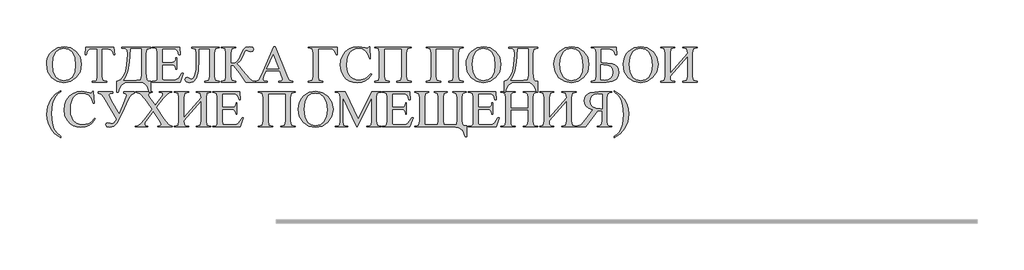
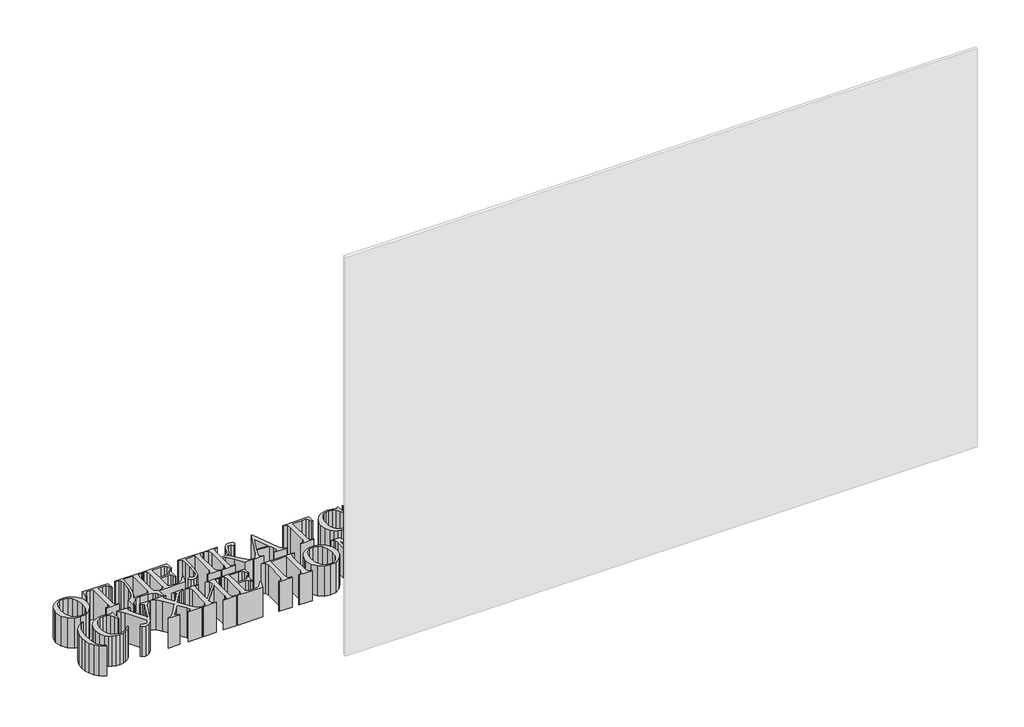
# One storey, part 4 of 17: 1 proxy.
"""IFC4 building model written with IfcOpenShell, lengths in millimetres."""

from ifc_helpers import new_model, si_unit, origin, origin_with_axes, place, context, project, spatial, polyline, outline, extrude, element, save

model = new_model("IFC4")

# Units and contexts
model_context = context("Model", 3, world=origin())
ifc_project = project(units=[si_unit("LENGTHUNIT", "METRE", prefix="MILLI")], contexts=[model_context])

# Site, building, storey
site = spatial("IfcSite", under=ifc_project)
building = spatial("IfcBuilding", under=site)
storey = spatial("IfcBuildingStorey", under=building, Name="Уровень 1", Elevation=0.0)

# Proxy
placement = place(None, origin())
element("IfcBuildingElementProxy", 1, Name="SG_Текст 2", ObjectType="SG_Текст 2", at=placement, inside=storey, context=model_context, shape_type="SweptSolid", body=[
    extrude(outline(polyline([(-694.4542029, -10182.1485348), (-666.748358, -10187.6092512), (-643.0048009, -10203.9914005), (-626.682991, -10228.5394831), (-621.2423877, -10258.4979992), (-626.7232173, -10289.3062953), (-643.165706, -10314.3924043), (-667.3919784, -10331.0611658), (-696.2241589, -10336.6174196), (-725.2021597, -10331.1969295), (-749.1418199, -10314.935459), (-765.2071873, -10290.0655662), (-770.5623098, -10258.8198094), (-769.0161124, -10242.0479681), (-764.3775204, -10226.8902059), (-756.6465337, -10213.3465229), (-745.8231524, -10201.4169191), (-722.2405004, -10186.9656308), (-694.4542029, -10182.1485348)]), holes=[polyline([(-696.5861954, -10189.871979), (-715.0299411, -10193.5526829), (-729.4108334, -10204.5947946), (-740.9658301, -10227.1919029), (-744.8174956, -10258.2968678), (-740.8250381, -10290.3370936), (-728.8476656, -10314.050481), (-714.6176218, -10325.1831018), (-696.4655165, -10328.8939754), (-676.8552089, -10324.8311219), (-660.9859445, -10312.6425614), (-650.4868875, -10291.6947303), (-646.9872019, -10261.3540645), (-650.8388674, -10228.2076163), (-662.3938641, -10204.7154734), (-677.1166797, -10193.5828526), (-696.5861954, -10189.871979)])]), origin_with_axes(), (0.0, 0.0, 1.0), 150.0),
    extrude(outline(polyline([(-482.2203913, -10184.7230162), (-479.6459099, -10218.1912746), (-483.8294422, -10218.1912746), (-487.2486753, -10204.9166048), (-496.6012836, -10195.483544), (-512.028059, -10192.4464604), (-533.7100196, -10192.4464604), (-533.7100196, -10308.2981241), (-530.813728, -10326.5608516), (-518.1826786, -10331.4684568), (-513.1141683, -10331.4684568), (-513.1141683, -10334.0429382), (-574.9017223, -10334.0429382), (-574.9017223, -10331.4684568), (-569.7527594, -10331.4684568), (-561.8784667, -10329.949915), (-556.679221, -10325.3942897), (-554.3058709, -10308.2981241), (-554.3058709, -10192.4464604), (-572.1663357, -10192.4464604), (-586.9696039, -10193.9750588), (-596.744588, -10202.0404263), (-601.5717407, -10218.1912746), (-605.7954992, -10218.1912746), (-603.2210178, -10184.7230162), (-482.2203913, -10184.7230162)])), origin_with_axes(), (0.0, 0.0, 1.0), 150.0),
    extrude(outline(polyline([(-448.7521329, -10184.7230162), (-325.1770251, -10184.7230162), (-325.1770251, -10189.871979), (-342.0921725, -10194.2566427), (-345.7728764, -10212.8411804), (-345.7728764, -10295.0636805), (-343.0173767, -10324.549538), (-337.179539, -10328.7732966), (-325.1770251, -10330.1812161), (-325.1770251, -10377.8091223), (-330.3259879, -10377.8091223), (-340.6038004, -10351.0385382), (-348.1763961, -10342.5658796), (-356.6943092, -10337.4621713), (-378.235478, -10334.0429382), (-415.0827432, -10334.0429382), (-436.0506875, -10337.492341), (-450.6025415, -10347.8405495), (-459.6735658, -10362.2314984), (-464.1990214, -10377.8091223), (-469.3479843, -10377.8091223), (-469.3479843, -10330.1812161), (-453.9966332, -10324.1372187), (-441.813101, -10309.0624232), (-432.837614, -10287.2396706), (-427.1103986, -10260.9518018), (-423.0073188, -10214.1686473), (-425.8633841, -10198.0781385), (-432.641511, -10191.6218218), (-448.7521329, -10189.871979), (-448.7521329, -10184.7230162)]), holes=[polyline([(-410.1349117, -10192.4464604), (-414.0971995, -10248.3660069), (-420.5132899, -10284.6651892), (-429.4636355, -10308.3232655), (-441.0286887, -10326.319494), (-386.6427688, -10326.319494), (-369.2449061, -10323.7248994), (-366.3687277, -10306.809752), (-366.3687277, -10192.4464604), (-410.1349117, -10192.4464604)])]), origin_with_axes(), (0.0, 0.0, 1.0), 150.0),
    extrude(outline(polyline([(-276.2618782, -10192.4464604), (-276.2618782, -10251.6595329), (-240.2191384, -10251.6595329), (-223.3643304, -10247.9989422), (-218.949497, -10241.3515507), (-217.0488056, -10231.0636816), (-214.4743242, -10231.0636816), (-214.4743242, -10279.9788285), (-217.0488056, -10279.9788285), (-220.1060023, -10267.0259689), (-226.5019796, -10261.4144039), (-240.2191384, -10259.3829772), (-276.2618782, -10259.3829772), (-276.2618782, -10309.3440071), (-275.3366739, -10321.5727939), (-272.098459, -10325.0322533), (-263.3492448, -10326.319494), (-236.7999052, -10326.319494), (-217.5114078, -10324.4690854), (-205.9463545, -10317.1479039), (-191.3039915, -10295.425717), (-186.1550287, -10295.425717), (-199.7515086, -10334.0429382), (-317.4535808, -10334.0429382), (-317.4535808, -10331.4684568), (-312.3448443, -10331.4684568), (-302.6905389, -10328.8135228), (-298.0846308, -10323.3226367), (-296.8577295, -10308.2981241), (-296.8577295, -10210.4678303), (-299.6333423, -10191.9637451), (-312.3448443, -10187.2974976), (-317.4535808, -10187.2974976), (-317.4535808, -10184.7230162), (-201.6019172, -10184.7230162), (-199.0274357, -10218.1912746), (-204.1763986, -10218.1912746), (-209.4460402, -10201.2157877), (-218.0142362, -10194.1761901), (-234.0242925, -10192.4464604), (-276.2618782, -10192.4464604)])), origin_with_axes(), (0.0, 0.0, 1.0), 150.0),
    extrude(outline(polyline([(-72.8778464, -10192.4464604), (-119.2185119, -10192.4464604), (-119.2185119, -10234.6438198), (-122.0041812, -10287.3150949), (-130.3611893, -10317.5702798), (-143.6157459, -10331.8556347), (-161.0940612, -10336.6174196), (-173.926242, -10332.6350187), (-178.4315844, -10323.3829761), (-175.5352928, -10316.4037179), (-168.4956952, -10313.4470869), (-160.5711196, -10317.1076777), (-151.5202084, -10321.1705311), (-142.6855134, -10317.1730453), (-135.650944, -10305.180588), (-131.0500642, -10282.0353967), (-129.5164376, -10244.5797091), (-129.5164376, -10213.1227643), (-133.1971414, -10194.2968689), (-150.1122889, -10189.871979), (-150.1122889, -10184.7230162), (-31.6861438, -10184.7230162), (-31.6861438, -10187.2974976), (-48.6012912, -10191.7022744), (-52.2819951, -10210.4678303), (-52.2819951, -10308.2981241), (-48.6012912, -10327.06368), (-31.6861438, -10331.4684568), (-31.6861438, -10334.0429382), (-93.4736977, -10334.0429382), (-93.4736977, -10331.4684568), (-76.5585503, -10327.06368), (-72.8778464, -10308.2981241), (-72.8778464, -10192.4464604)])), origin_with_axes(), (0.0, 0.0, 1.0), 150.0),
    extrude(outline(polyline([(121.4150478, -10329.9398585), (121.4150478, -10334.0429382), (82.4357901, -10334.0429382), (55.6450929, -10296.2101293), (30.7450305, -10265.2358998), (17.2290031, -10261.9574586), (17.2290031, -10308.2981241), (20.8493676, -10327.06368), (37.8248544, -10331.4684568), (37.8248544, -10334.0429382), (-23.9626996, -10334.0429382), (-23.9626996, -10331.4684568), (-7.0877784, -10327.1039063), (-3.3668482, -10308.2981241), (-3.3668482, -10210.4678303), (-7.0475521, -10191.7022744), (-23.9626996, -10187.2974976), (-23.9626996, -10184.7230162), (37.8248544, -10184.7230162), (37.8248544, -10187.2974976), (20.8493676, -10191.7022744), (17.2290031, -10210.4678303), (17.2290031, -10254.2340144), (34.1039242, -10252.6048503), (44.6432075, -10245.6859315), (53.9153632, -10234.0404258), (62.6846905, -10213.525027), (70.8908501, -10194.900263), (81.1083232, -10185.9096912), (97.8424524, -10182.1485348), (110.7550857, -10185.2459577), (115.0592968, -10194.5382266), (111.6601768, -10202.1007657), (103.8763932, -10205.3188675), (93.3773362, -10201.256014), (84.3666512, -10197.5954232), (78.2120316, -10201.3364665), (70.0460983, -10220.4037195), (57.8575379, -10243.7852402), (42.6922333, -10256.7280432), (53.3924217, -10265.5174837), (69.3220254, -10285.2886964), (98.4056202, -10320.848721), (108.8644509, -10327.5262821), (121.4150478, -10329.9398585)])), origin_with_axes(), (0.0, 0.0, 1.0), 150.0),
    extrude(outline(polyline([(226.6872019, -10285.1277913), (168.4395599, -10285.1277913), (158.8254809, -10307.4935986), (155.0844376, -10321.4118888), (158.3427656, -10327.8480923), (172.4219608, -10331.4684568), (172.4219608, -10334.0429382), (124.9549598, -10334.0429382), (124.9549598, -10331.4684568), (137.1032939, -10326.8022092), (149.6136646, -10303.4307451), (201.9882708, -10182.1485348), (207.4992701, -10182.1485348), (256.6557746, -10305.4018325), (268.1202622, -10326.1183626), (282.440815, -10331.4684568), (282.440815, -10334.0429382), (223.4288739, -10334.0429382), (223.4288739, -10331.4684568), (235.5168686, -10328.1497893), (238.674631, -10321.2509837), (234.2497411, -10304.1145918), (226.6872019, -10285.1277913)]), holes=[polyline([(223.5897789, -10277.4043471), (198.7299428, -10216.783355), (171.7783405, -10277.4043471), (223.5897789, -10277.4043471)])]), origin_with_axes(), (0.0, 0.0, 1.0), 150.0),
    extrude(outline(polyline([(472.2685931, -10184.7230162), (472.9122134, -10218.1912746), (467.7632506, -10218.1912746), (462.9964374, -10201.8795212), (452.5174935, -10194.0957376), (434.5765761, -10192.4464604), (390.5288082, -10192.4464604), (390.5288082, -10308.2981241), (394.1893989, -10327.06368), (411.1246595, -10331.4684568), (411.1246595, -10334.0429382), (349.3371055, -10334.0429382), (349.3371055, -10331.4684568), (366.252253, -10327.06368), (369.9329569, -10308.2981241), (369.9329569, -10210.4678303), (366.252253, -10191.7022744), (349.3371055, -10187.2974976), (349.3371055, -10184.7230162), (472.2685931, -10184.7230162)])), origin_with_axes(), (0.0, 0.0, 1.0), 150.0),
    extrude(outline(polyline([(611.9342098, -10182.1485348), (614.5086912, -10233.638163), (611.9342098, -10233.638163), (603.8235877, -10213.6105078), (592.8468437, -10200.1095652), (579.2051092, -10192.4313756), (563.0995155, -10189.871979), (549.2365365, -10191.7274158), (536.7714204, -10197.2937262), (526.2623068, -10206.9279184), (518.2673352, -10220.9870005), (513.2139098, -10239.2446997), (511.5294346, -10261.4747433), (513.1334572, -10280.0995073), (517.945525, -10296.0693373), (525.9857512, -10309.0020838), (537.2742488, -10318.5155972), (551.0919733, -10324.3685198), (566.71988, -10326.319494), (592.0825445, -10320.6274765), (603.6224563, -10312.1246482), (616.2384209, -10298.0001984), (619.6576541, -10300.5746798), (607.5445179, -10316.7707826), (593.5709166, -10327.948658), (577.2641915, -10334.4502292), (558.151684, -10336.6174196), (540.7110809, -10334.9153455), (525.3572157, -10329.8091231), (512.0900883, -10321.2987524), (500.9096988, -10309.3842334), (489.5658901, -10287.3201232), (485.7846205, -10261.6758747), (488.2836777, -10240.4514879), (495.7808491, -10221.0272267), (507.6626842, -10204.5897663), (523.3157324, -10192.3257816), (541.668969, -10184.6928465), (561.6513697, -10182.1485348), (593.5105772, -10188.0617968), (600.1076858, -10189.871979), (605.2968749, -10188.3031544), (609.3597284, -10182.1485348), (611.9342098, -10182.1485348)])), origin_with_axes(), (0.0, 0.0, 1.0), 150.0),
    extrude(outline(polyline([(748.3817248, -10192.4464604), (673.7217638, -10192.4464604), (673.7217638, -10308.2981241), (677.3421282, -10327.06368), (694.3176151, -10331.4684568), (694.3176151, -10334.0429382), (632.5300611, -10334.0429382), (632.5300611, -10331.4684568), (649.4452085, -10327.06368), (653.1259124, -10308.2981241), (653.1259124, -10210.4678303), (649.4452085, -10191.7022744), (632.5300611, -10187.2974976), (632.5300611, -10184.7230162), (789.5734274, -10184.7230162), (789.5734274, -10187.2974976), (772.65828, -10191.7022744), (768.9775761, -10210.4678303), (768.9775761, -10308.2981241), (772.65828, -10327.06368), (789.5734274, -10331.4684568), (789.5734274, -10334.0429382), (727.7858735, -10334.0429382), (727.7858735, -10331.4684568), (744.6809077, -10327.1039063), (748.3817248, -10308.2981241), (748.3817248, -10192.4464604)])), origin_with_axes(), (0.0, 0.0, 1.0), 150.0),
    extrude(outline(polyline([(969.7871264, -10192.4464604), (895.1271654, -10192.4464604), (895.1271654, -10308.2981241), (898.7475299, -10327.06368), (915.7230167, -10331.4684568), (915.7230167, -10334.0429382), (853.9354628, -10334.0429382), (853.9354628, -10331.4684568), (870.8506102, -10327.06368), (874.5313141, -10308.2981241), (874.5313141, -10210.4678303), (870.8506102, -10191.7022744), (853.9354628, -10187.2974976), (853.9354628, -10184.7230162), (1010.978829, -10184.7230162), (1010.978829, -10187.2974976), (994.0636816, -10191.7022744), (990.3829777, -10210.4678303), (990.3829777, -10308.2981241), (994.0636816, -10327.06368), (1010.978829, -10331.4684568), (1010.978829, -10334.0429382), (949.1912751, -10334.0429382), (949.1912751, -10331.4684568), (966.0863094, -10327.1039063), (969.7871264, -10308.2981241), (969.7871264, -10192.4464604)])), origin_with_axes(), (0.0, 0.0, 1.0), 150.0),
    extrude(outline(polyline([(1099.9593429, -10182.1485348), (1127.6651878, -10187.6092512), (1151.408745, -10203.9914005), (1167.7305549, -10228.5394831), (1173.1711582, -10258.4979992), (1167.6903286, -10289.3062953), (1151.2478399, -10314.3924043), (1127.0215675, -10331.0611658), (1098.189387, -10336.6174196), (1069.2113862, -10331.1969295), (1045.271726, -10314.935459), (1029.2063586, -10290.0655662), (1023.8512361, -10258.8198094), (1025.3974335, -10242.0479681), (1030.0360255, -10226.8902059), (1037.7670121, -10213.3465229), (1048.5903935, -10201.4169191), (1072.1730455, -10186.9656308), (1099.9593429, -10182.1485348)]), holes=[polyline([(1097.8273505, -10189.871979), (1079.3836048, -10193.5526829), (1065.0027125, -10204.5947946), (1053.4477158, -10227.1919029), (1049.5960503, -10258.2968678), (1053.5885078, -10290.3370936), (1065.5658803, -10314.050481), (1079.795924, -10325.1831018), (1097.9480293, -10328.8939754), (1117.558337, -10324.8311219), (1133.4276013, -10312.6425614), (1143.9266583, -10291.6947303), (1147.426344, -10261.3540645), (1143.5746785, -10228.2076163), (1132.0196818, -10204.7154734), (1117.2968662, -10193.5828526), (1097.8273505, -10189.871979)])]), origin_with_axes(), (0.0, 0.0, 1.0), 150.0),
    extrude(outline(polyline([(1206.6394165, -10184.7230162), (1330.2145244, -10184.7230162), (1330.2145244, -10189.871979), (1313.299377, -10194.2566427), (1309.6186731, -10212.8411804), (1309.6186731, -10295.0636805), (1312.3741728, -10324.549538), (1318.2120105, -10328.7732966), (1330.2145244, -10330.1812161), (1330.2145244, -10377.8091223), (1325.0655616, -10377.8091223), (1314.7877491, -10351.0385382), (1307.2151534, -10342.5658796), (1298.6972403, -10337.4621713), (1277.1560715, -10334.0429382), (1240.3088063, -10334.0429382), (1219.340862, -10337.492341), (1204.789008, -10347.8405495), (1195.7179837, -10362.2314984), (1191.1925281, -10377.8091223), (1186.0435652, -10377.8091223), (1186.0435652, -10330.1812161), (1201.3949163, -10324.1372187), (1213.5784485, -10309.0624232), (1222.5539354, -10287.2396706), (1228.2811509, -10260.9518018), (1232.3842307, -10214.1686473), (1229.5281654, -10198.0781385), (1222.7500385, -10191.6218218), (1206.6394165, -10189.871979), (1206.6394165, -10184.7230162)]), holes=[polyline([(1245.2566378, -10192.4464604), (1241.29435, -10248.3660069), (1234.8782596, -10284.6651892), (1225.927914, -10308.3232655), (1214.3628608, -10326.319494), (1268.7487807, -10326.319494), (1286.1466434, -10323.7248994), (1289.0228218, -10306.809752), (1289.0228218, -10192.4464604), (1245.2566378, -10192.4464604)])]), origin_with_axes(), (0.0, 0.0, 1.0), 150.0),
    extrude(outline(polyline([(1475.8336294, -10182.1485348), (1503.5394744, -10187.6092512), (1527.2830315, -10203.9914005), (1543.6048414, -10228.5394831), (1549.0454447, -10258.4979992), (1543.5646151, -10289.3062953), (1527.1221264, -10314.3924043), (1502.895854, -10331.0611658), (1474.0636735, -10336.6174196), (1445.0856727, -10331.1969295), (1421.1460125, -10314.935459), (1405.0806451, -10290.0655662), (1399.7255226, -10258.8198094), (1401.27172, -10242.0479681), (1405.910312, -10226.8902059), (1413.6412986, -10213.3465229), (1424.46468, -10201.4169191), (1448.047332, -10186.9656308), (1475.8336294, -10182.1485348)]), holes=[polyline([(1473.701637, -10189.871979), (1455.2578913, -10193.5526829), (1440.876999, -10204.5947946), (1429.3220023, -10227.1919029), (1425.4703368, -10258.2968678), (1429.4627943, -10290.3370936), (1441.4401668, -10314.050481), (1455.6702106, -10325.1831018), (1473.8223158, -10328.8939754), (1493.4326235, -10324.8311219), (1509.3018878, -10312.6425614), (1519.8009449, -10291.6947303), (1523.3006305, -10261.3540645), (1519.448965, -10228.2076163), (1507.8939683, -10204.7154734), (1493.1711527, -10193.5828526), (1473.701637, -10189.871979)])]), origin_with_axes(), (0.0, 0.0, 1.0), 150.0),
    extrude(outline(polyline([(1665.4602761, -10184.7230162), (1667.4715897, -10218.1912746), (1662.3226269, -10218.1912746), (1657.8725956, -10204.5394835), (1651.5218728, -10196.971916), (1641.379824, -10193.5778243), (1625.5558142, -10192.4464604), (1600.535073, -10192.4464604), (1600.535073, -10251.6595329), (1606.6494663, -10251.6595329), (1647.9618478, -10255.1391055), (1659.934192, -10260.212644), (1669.4627902, -10268.4741147), (1675.6928341, -10279.315095), (1677.7695154, -10292.1271627), (1674.6771207, -10307.8003239), (1665.3999367, -10321.4320019), (1648.550157, -10330.8902041), (1622.7399752, -10334.0429382), (1559.3433703, -10334.0429382), (1559.3433703, -10331.4684568), (1576.2585177, -10327.06368), (1579.9392216, -10308.2981241), (1579.9392216, -10210.4678303), (1578.3100576, -10195.1215075), (1573.0001897, -10189.5099425), (1559.3433703, -10187.2974976), (1559.3433703, -10184.7230162), (1665.4602761, -10184.7230162)]), holes=[polyline([(1600.535073, -10324.7506694), (1615.9015089, -10326.319494), (1629.040415, -10324.0467096), (1640.8619107, -10317.2283565), (1649.2340036, -10306.3974327), (1652.0247012, -10292.0869364), (1649.1082965, -10277.5903936), (1640.3590823, -10267.4081185), (1627.1246388, -10261.3892625), (1610.7525461, -10259.3829772), (1600.535073, -10260.2679552), (1600.535073, -10324.7506694)])]), origin_with_axes(), (0.0, 0.0, 1.0), 150.0),
    extrude(outline(polyline([(1771.8989921, -10182.1485348), (1799.604837, -10187.6092512), (1823.3483941, -10203.9914005), (1839.670204, -10228.5394831), (1845.1108073, -10258.4979992), (1839.6299778, -10289.3062953), (1823.187489, -10314.3924043), (1798.9612167, -10331.0611658), (1770.1290361, -10336.6174196), (1741.1510354, -10331.1969295), (1717.2113752, -10314.935459), (1701.1460078, -10290.0655662), (1695.7908853, -10258.8198094), (1697.3370826, -10242.0479681), (1701.9756746, -10226.8902059), (1709.7066613, -10213.3465229), (1720.5300426, -10201.4169191), (1744.1126947, -10186.9656308), (1771.8989921, -10182.1485348)]), holes=[polyline([(1769.7669997, -10189.871979), (1751.3232539, -10193.5526829), (1736.9423617, -10204.5947946), (1725.387365, -10227.1919029), (1721.5356994, -10258.2968678), (1725.5281569, -10290.3370936), (1737.5055295, -10314.050481), (1751.7355732, -10325.1831018), (1769.8876785, -10328.8939754), (1789.4979862, -10324.8311219), (1805.3672505, -10312.6425614), (1815.8663075, -10291.6947303), (1819.3659932, -10261.3540645), (1815.5143276, -10228.2076163), (1803.959331, -10204.7154734), (1789.2365154, -10193.5828526), (1769.7669997, -10189.871979)])]), origin_with_axes(), (0.0, 0.0, 1.0), 150.0),
    extrude(outline(polyline([(1971.2603966, -10210.4678303), (1967.17743, -10191.3201248), (1950.6645453, -10187.2974976), (1950.6645453, -10184.7230162), (2012.4520993, -10184.7230162), (2012.4520993, -10187.2974976), (1995.5369519, -10191.7022744), (1991.856248, -10210.4678303), (1991.856248, -10308.2981241), (1995.5369519, -10327.06368), (2012.4520993, -10331.4684568), (2012.4520993, -10334.0429382), (1950.6645453, -10334.0429382), (1950.6645453, -10331.4684568), (1967.6400322, -10327.0033406), (1971.2603966, -10308.2981241), (1971.2603966, -10223.3402374), (1896.6004356, -10308.2981241), (1897.8072238, -10323.1215053), (1902.9159603, -10329.0548805), (1917.1962869, -10331.4684568), (1917.1962869, -10334.0429382), (1855.408733, -10334.0429382), (1855.408733, -10331.4684568), (1872.3238804, -10327.06368), (1876.0045843, -10308.2981241), (1876.0045843, -10210.4678303), (1872.3238804, -10191.7022744), (1855.408733, -10187.2974976), (1855.408733, -10184.7230162), (1917.1962869, -10184.7230162), (1917.1962869, -10187.2974976), (1900.2610264, -10191.7022744), (1896.6004356, -10210.4678303), (1896.6004356, -10295.425717), (1971.2603966, -10210.4678303)])), origin_with_axes(), (0.0, 0.0, 1.0), 150.0),
    extrude(outline(polyline([(-708.7747558, -10566.4263435), (-708.7747558, -10571.5753063), (-736.9733725, -10552.3471482), (-751.2536991, -10535.2962371), (-761.8332087, -10515.4395436), (-768.3800345, -10493.7726678), (-770.5623098, -10471.2912099), (-766.2832401, -10439.2912105), (-753.446031, -10410.2277289), (-733.7200728, -10386.5646243), (-708.7747558, -10370.765756), (-708.7747558, -10375.9147188), (-721.632078, -10384.5281693), (-731.9652017, -10395.8066104), (-739.884749, -10410.1070501), (-745.5013422, -10427.7864967), (-749.9664584, -10468.2340133), (-746.1851889, -10509.8279786), (-738.964573, -10533.5212529), (-727.5403117, -10550.6978711), (-708.7747558, -10566.4263435)])), origin_with_axes(), (0.0, 0.0, 1.0), 150.0),
    extrude(outline(polyline([(-569.7527594, -10373.3402374), (-567.178278, -10424.8298657), (-569.7527594, -10424.8298657), (-577.8633815, -10404.8022105), (-588.8401255, -10391.3012679), (-602.4818601, -10383.6230782), (-618.5874538, -10381.0636816), (-632.4504328, -10382.9191184), (-644.9155488, -10388.4854288), (-655.4246624, -10398.119621), (-663.419634, -10412.1787031), (-668.4730594, -10430.4364023), (-670.1575346, -10452.666446), (-668.553512, -10471.2912099), (-663.7414442, -10487.26104), (-655.7012181, -10500.1937865), (-644.4127204, -10509.7072998), (-630.594996, -10515.5602224), (-614.9670893, -10517.5111966), (-589.6044247, -10511.8191791), (-578.0645129, -10503.3163508), (-565.4485483, -10489.191901), (-562.0293152, -10491.7663824), (-574.1424514, -10507.9624853), (-588.1160526, -10519.1403606), (-604.4227777, -10525.6419318), (-623.5352852, -10527.8091223), (-640.9758883, -10526.1070481), (-656.3297536, -10521.0008257), (-669.5968809, -10512.490455), (-680.7772704, -10500.575936), (-692.1210792, -10478.5118258), (-695.9023487, -10452.8675773), (-693.4032916, -10431.6431905), (-685.9061201, -10412.2189294), (-674.024285, -10395.7814689), (-658.3712369, -10383.5174842), (-640.0180002, -10375.8845491), (-620.0355995, -10373.3402374), (-588.176392, -10379.2534994), (-581.5792834, -10381.0636816), (-576.3900943, -10379.494857), (-572.3272408, -10373.3402374), (-569.7527594, -10373.3402374)])), origin_with_axes(), (0.0, 0.0, 1.0), 150.0),
    extrude(outline(polyline([(-549.1569081, -10375.9147188), (-487.3693542, -10375.9147188), (-487.3693542, -10381.0636816), (-500.8853816, -10383.336466), (-505.3907241, -10388.948031), (-493.4435212, -10414.5721663), (-460.3372993, -10471.5325676), (-435.8797259, -10414.5721663), (-428.1562816, -10390.878892), (-431.3743834, -10384.4426885), (-441.0286887, -10381.0636816), (-441.0286887, -10375.9147188), (-394.6880232, -10375.9147188), (-394.6880232, -10381.0636816), (-409.1996509, -10387.3892629), (-419.7489908, -10402.5847372), (-448.7521329, -10470.3257794), (-467.1154262, -10507.1127053), (-482.5422015, -10522.8210645), (-499.8797248, -10527.8091223), (-512.9331501, -10524.7116993), (-518.2631311, -10516.2641822), (-515.5277446, -10509.7877523), (-508.0858843, -10507.2132709), (-497.104112, -10510.3911464), (-490.6276822, -10512.3622338), (-481.4560922, -10507.5250245), (-471.238619, -10493.0133969), (-525.6647652, -10399.4873142), (-536.1235959, -10386.2729839), (-549.1569081, -10381.0636816), (-549.1569081, -10375.9147188)])), origin_with_axes(), (0.0, 0.0, 1.0), 150.0),
    extrude(outline(polyline([(-300.5987728, -10442.8110093), (-268.5384339, -10490.1573316), (-248.6666555, -10516.5658792), (-232.2543365, -10522.6601594), (-232.2543365, -10525.2346408), (-295.4095837, -10525.2346408), (-295.4095837, -10522.6601594), (-285.9161835, -10521.2522399), (-282.0946876, -10517.9939119), (-280.6063156, -10513.5690219), (-281.5717461, -10508.1384752), (-287.6861395, -10497.7198707), (-313.4309536, -10459.7060436), (-344.1235992, -10499.972542), (-350.0972006, -10509.00334), (-351.0827443, -10513.6897007), (-348.1060001, -10519.8644335), (-336.7219651, -10522.6601594), (-336.7219651, -10525.2346408), (-390.4240384, -10525.2346408), (-390.4240384, -10522.6601594), (-380.6892805, -10520.2063568), (-367.6559684, -10511.9800842), (-353.4963206, -10496.1510461), (-319.2235368, -10451.1378476), (-348.3473578, -10407.5727949), (-368.8225303, -10384.3421228), (-388.1713672, -10378.4892002), (-388.1713672, -10375.9147188), (-319.1833105, -10375.9147188), (-319.1833105, -10378.4892002), (-331.2914184, -10381.5866232), (-334.5497465, -10387.6607903), (-329.2398785, -10400.5331973), (-306.391356, -10434.2830396), (-279.8420164, -10399.447088), (-274.1298858, -10391.3414941), (-273.0840027, -10386.8160385), (-274.4114697, -10382.7531851), (-278.6151151, -10379.5350833), (-289.1342852, -10378.4892002), (-289.1342852, -10375.9147188), (-235.8344747, -10375.9147188), (-235.8344747, -10378.4892002), (-246.1324004, -10380.5407401), (-257.0739464, -10387.5401114), (-271.1129153, -10403.8719779), (-300.5987728, -10442.8110093)])), origin_with_axes(), (0.0, 0.0, 1.0), 150.0),
    extrude(outline(polyline([(-108.9205862, -10401.6595329), (-113.0035529, -10382.5118274), (-129.5164376, -10378.4892002), (-129.5164376, -10375.9147188), (-67.7288836, -10375.9147188), (-67.7288836, -10378.4892002), (-84.644031, -10382.893977), (-88.3247349, -10401.6595329), (-88.3247349, -10499.4898267), (-84.644031, -10518.2553826), (-67.7288836, -10522.6601594), (-67.7288836, -10525.2346408), (-129.5164376, -10525.2346408), (-129.5164376, -10522.6601594), (-112.5409507, -10518.1950432), (-108.9205862, -10499.4898267), (-108.9205862, -10414.53194), (-183.5805473, -10499.4898267), (-182.3737591, -10514.313208), (-177.2650225, -10520.2465831), (-162.9846959, -10522.6601594), (-162.9846959, -10525.2346408), (-224.7722499, -10525.2346408), (-224.7722499, -10522.6601594), (-207.8571025, -10518.2553826), (-204.1763986, -10499.4898267), (-204.1763986, -10401.6595329), (-207.8571025, -10382.893977), (-224.7722499, -10378.4892002), (-224.7722499, -10375.9147188), (-162.9846959, -10375.9147188), (-162.9846959, -10378.4892002), (-179.9199565, -10382.893977), (-183.5805473, -10401.6595329), (-183.5805473, -10486.6174196), (-108.9205862, -10401.6595329)])), origin_with_axes(), (0.0, 0.0, 1.0), 150.0),
    extrude(outline(polyline([(-18.8137367, -10383.638163), (-18.8137367, -10442.8512356), (17.2290031, -10442.8512356), (34.0838111, -10439.1906448), (38.4986444, -10432.5432533), (40.3993358, -10422.2553843), (42.9738172, -10422.2553843), (42.9738172, -10471.1705311), (40.3993358, -10471.1705311), (37.3421391, -10458.2176715), (30.9461619, -10452.6061066), (17.2290031, -10450.5746798), (-18.8137367, -10450.5746798), (-18.8137367, -10500.5357098), (-17.8885325, -10512.7644965), (-14.6503176, -10516.2239559), (-5.9011034, -10517.5111966), (20.6482362, -10517.5111966), (39.9367337, -10515.6607881), (51.5017869, -10508.3396066), (66.1441499, -10486.6174196), (71.2931128, -10486.6174196), (57.6966328, -10525.2346408), (-60.0054394, -10525.2346408), (-60.0054394, -10522.6601594), (-54.8967028, -10522.6601594), (-45.2423975, -10520.0052255), (-40.6364893, -10514.5143393), (-39.409588, -10499.4898267), (-39.409588, -10401.6595329), (-42.1852008, -10383.1554478), (-54.8967028, -10378.4892002), (-60.0054394, -10378.4892002), (-60.0054394, -10375.9147188), (55.8462243, -10375.9147188), (58.4207057, -10409.3829772), (53.2717429, -10409.3829772), (48.0021012, -10392.4074904), (39.4339053, -10385.3678927), (23.423849, -10383.638163), (-18.8137367, -10383.638163)])), origin_with_axes(), (0.0, 0.0, 1.0), 150.0),
    extrude(outline(polyline([(251.5068118, -10383.638163), (176.8468508, -10383.638163), (176.8468508, -10499.4898267), (180.4672153, -10518.2553826), (197.4427021, -10522.6601594), (197.4427021, -10525.2346408), (135.6551481, -10525.2346408), (135.6551481, -10522.6601594), (152.5702956, -10518.2553826), (156.2509995, -10499.4898267), (156.2509995, -10401.6595329), (152.5702956, -10382.893977), (135.6551481, -10378.4892002), (135.6551481, -10375.9147188), (292.6985144, -10375.9147188), (292.6985144, -10378.4892002), (275.783367, -10382.893977), (272.1026631, -10401.6595329), (272.1026631, -10499.4898267), (275.783367, -10518.2553826), (292.6985144, -10522.6601594), (292.6985144, -10525.2346408), (230.9109605, -10525.2346408), (230.9109605, -10522.6601594), (247.8059948, -10518.2956089), (251.5068118, -10499.4898267), (251.5068118, -10383.638163)])), origin_with_axes(), (0.0, 0.0, 1.0), 150.0),
    extrude(outline(polyline([(381.6790283, -10373.3402374), (409.3848732, -10378.8009538), (433.1284303, -10395.1831031), (449.4502402, -10419.7311857), (454.8908435, -10449.6897018), (449.410014, -10480.497998), (432.9675252, -10505.5841069), (408.7412529, -10522.2528684), (379.9090723, -10527.8091223), (350.9310716, -10522.3886321), (326.9914114, -10506.1271616), (310.926044, -10481.2572689), (305.5709215, -10450.011512), (307.1171188, -10433.2396707), (311.7557108, -10418.0819085), (319.4866975, -10404.5382255), (330.3100788, -10392.6086217), (353.8927309, -10378.1573335), (381.6790283, -10373.3402374)]), holes=[polyline([(379.5470359, -10381.0636816), (361.1032901, -10384.7443855), (346.7223978, -10395.7864972), (335.1674012, -10418.3836056), (331.3157356, -10449.4885705), (335.3081931, -10481.5287962), (347.2855657, -10505.2421836), (361.5156094, -10516.3748044), (379.6677147, -10520.085678), (399.2780223, -10516.0228245), (415.1472867, -10503.8342641), (425.6463437, -10482.8864329), (429.1460294, -10452.5457672), (425.2943638, -10419.3993189), (413.7393672, -10395.907176), (399.0165516, -10384.7745552), (379.5470359, -10381.0636816)])]), origin_with_axes(), (0.0, 0.0, 1.0), 150.0),
    extrude(outline(polyline([(555.2956187, -10525.2346408), (496.0825462, -10399.6079931), (496.0825462, -10499.4898267), (498.9788378, -10517.7525542), (511.5294346, -10522.6601594), (516.6783975, -10522.6601594), (516.6783975, -10525.2346408), (465.1887692, -10525.2346408), (465.1887692, -10522.6601594), (470.337732, -10522.6601594), (478.2120248, -10521.1416177), (483.4112704, -10516.5859923), (485.7846205, -10499.4898267), (485.7846205, -10401.6595329), (483.6526281, -10386.4540021), (478.1014025, -10380.7619846), (465.1887692, -10378.4892002), (465.1887692, -10375.9147188), (507.4665812, -10375.9147188), (562.5765739, -10493.0536232), (620.1805956, -10375.9147188), (660.8493567, -10375.9147188), (660.8493567, -10378.4892002), (655.8210727, -10378.4892002), (647.8562708, -10380.007742), (642.6268554, -10384.5633673), (640.2535054, -10401.6595329), (640.2535054, -10499.4898267), (643.2704758, -10517.7525542), (655.8210727, -10522.6601594), (660.8493567, -10522.6601594), (660.8493567, -10525.2346408), (599.0618027, -10525.2346408), (599.0618027, -10522.6601594), (604.2107656, -10522.6601594), (612.1453977, -10521.1416177), (617.284304, -10516.5859923), (619.6576541, -10499.4898267), (619.6576541, -10399.6079931), (557.8701001, -10525.2346408), (555.2956187, -10525.2346408)])), origin_with_axes(), (0.0, 0.0, 1.0), 150.0),
    extrude(outline(polyline([(707.1900221, -10383.638163), (707.1900221, -10442.8512356), (743.2327619, -10442.8512356), (760.08757, -10439.1906448), (764.5024033, -10432.5432533), (766.4030947, -10422.2553843), (768.9775761, -10422.2553843), (768.9775761, -10471.1705311), (766.4030947, -10471.1705311), (763.345898, -10458.2176715), (756.9499207, -10452.6061066), (743.2327619, -10450.5746798), (707.1900221, -10450.5746798), (707.1900221, -10500.5357098), (708.1152264, -10512.7644965), (711.3534413, -10516.2239559), (720.1026555, -10517.5111966), (746.6519951, -10517.5111966), (765.9404925, -10515.6607881), (777.5055458, -10508.3396066), (792.1479088, -10486.6174196), (797.2968716, -10486.6174196), (783.7003917, -10525.2346408), (665.9983195, -10525.2346408), (665.9983195, -10522.6601594), (671.1070561, -10522.6601594), (680.7613614, -10520.0052255), (685.3672695, -10514.5143393), (686.5941708, -10499.4898267), (686.5941708, -10401.6595329), (683.8185581, -10383.1554478), (671.1070561, -10378.4892002), (665.9983195, -10378.4892002), (665.9983195, -10375.9147188), (781.8499832, -10375.9147188), (784.4244646, -10409.3829772), (779.2755017, -10409.3829772), (774.0058601, -10392.4074904), (765.4376641, -10385.3678927), (749.4276079, -10383.638163), (707.1900221, -10383.638163)])), origin_with_axes(), (0.0, 0.0, 1.0), 150.0),
    extrude(outline(polyline([(805.0203159, -10525.2346408), (805.0203159, -10522.6601594), (809.3647533, -10522.2176704), (822.036029, -10518.0542513), (825.6161672, -10499.4898267), (825.6161672, -10401.6595329), (821.7946714, -10383.1755609), (805.0203159, -10378.4892002), (805.0203159, -10375.9147188), (864.2333884, -10375.9147188), (864.2333884, -10378.4892002), (849.4502334, -10383.7186156), (846.2120185, -10401.6595329), (846.2120185, -10498.0416809), (847.0768834, -10512.6237045), (849.9530618, -10516.6061055), (859.2453307, -10517.5111966), (889.7368449, -10517.5111966), (903.353438, -10515.7211275), (905.4250911, -10498.0416809), (905.4250911, -10401.6595329), (902.2673287, -10383.8795207), (887.4037212, -10378.4892002), (887.4037212, -10375.9147188), (944.0423123, -10375.9147188), (944.0423123, -10378.4892002), (929.1988179, -10383.8392944), (926.0209424, -10401.6595329), (926.0209424, -10498.0416809), (927.9920297, -10515.1579597), (942.8757504, -10517.5111966), (973.9304324, -10517.5111966), (982.2371576, -10516.4452004), (984.7110734, -10513.2472118), (985.2340149, -10498.0416809), (985.2340149, -10401.6595329), (982.0159131, -10383.778955), (967.212645, -10378.4892002), (967.212645, -10375.9147188), (1023.8512361, -10375.9147188), (1023.8512361, -10378.4892002), (1012.1655041, -10380.9027765), (1007.0366544, -10387.1378487), (1005.8298662, -10401.6595329), (1005.8298662, -10497.760097), (1006.8958624, -10512.7443833), (1011.4816575, -10518.5973059), (1026.4257175, -10521.3326924), (1026.4257175, -10569.0008249), (1021.2767547, -10569.0008249), (1009.3295519, -10541.1039052), (992.4144045, -10528.5935346), (963.9945432, -10525.2346408), (805.0203159, -10525.2346408)])), origin_with_axes(), (0.0, 0.0, 1.0), 150.0),
    extrude(outline(polyline([(1075.3408644, -10383.638163), (1075.3408644, -10442.8512356), (1111.3836042, -10442.8512356), (1128.2384122, -10439.1906448), (1132.6532456, -10432.5432533), (1134.5539369, -10422.2553843), (1137.1284184, -10422.2553843), (1137.1284184, -10471.1705311), (1134.5539369, -10471.1705311), (1131.4967403, -10458.2176715), (1125.100763, -10452.6061066), (1111.3836042, -10450.5746798), (1075.3408644, -10450.5746798), (1075.3408644, -10500.5357098), (1076.2660687, -10512.7644965), (1079.5042836, -10516.2239559), (1088.2534978, -10517.5111966), (1114.8028373, -10517.5111966), (1134.0913348, -10515.6607881), (1145.656388, -10508.3396066), (1160.2987511, -10486.6174196), (1165.4477139, -10486.6174196), (1151.8512339, -10525.2346408), (1034.1491618, -10525.2346408), (1034.1491618, -10522.6601594), (1039.2578983, -10522.6601594), (1048.9122036, -10520.0052255), (1053.5181118, -10514.5143393), (1054.7450131, -10499.4898267), (1054.7450131, -10401.6595329), (1051.9694003, -10383.1554478), (1039.2578983, -10378.4892002), (1034.1491618, -10378.4892002), (1034.1491618, -10375.9147188), (1150.0008254, -10375.9147188), (1152.5753068, -10409.3829772), (1147.426344, -10409.3829772), (1142.1567024, -10392.4074904), (1133.5885064, -10385.3678927), (1117.5784501, -10383.638163), (1075.3408644, -10383.638163)])), origin_with_axes(), (0.0, 0.0, 1.0), 150.0),
    extrude(outline(polyline([(1214.3628608, -10445.425717), (1289.0228218, -10445.425717), (1289.0228218, -10401.6595329), (1287.6551286, -10386.0919656), (1283.1900124, -10381.2245867), (1273.5357071, -10378.4892002), (1268.4269705, -10378.4892002), (1268.4269705, -10375.9147188), (1330.2145244, -10375.9147188), (1330.2145244, -10378.4892002), (1325.1057879, -10378.4892002), (1315.4514826, -10381.1039079), (1310.8455744, -10386.6149072), (1309.6186731, -10401.6595329), (1309.6186731, -10499.4898267), (1310.9863664, -10515.0171677), (1315.37103, -10519.9247729), (1325.1057879, -10522.6601594), (1330.2145244, -10522.6601594), (1330.2145244, -10525.2346408), (1268.4269705, -10525.2346408), (1268.4269705, -10522.6601594), (1273.5357071, -10522.6601594), (1281.148529, -10521.2622965), (1286.3678879, -10517.0687076), (1289.0228218, -10499.4898267), (1289.0228218, -10453.1491612), (1214.3628608, -10453.1491612), (1214.3628608, -10499.4898267), (1215.730554, -10515.0171677), (1220.155444, -10519.9247729), (1229.769523, -10522.6601594), (1234.9587121, -10522.6601594), (1234.9587121, -10525.2346408), (1173.1711582, -10525.2346408), (1173.1711582, -10522.6601594), (1178.2798947, -10522.6601594), (1185.9631127, -10521.2622965), (1191.2327543, -10517.0687076), (1193.7670095, -10499.4898267), (1193.7670095, -10401.6595329), (1192.3993162, -10386.0919656), (1188.0146526, -10381.2245867), (1178.2798947, -10378.4892002), (1173.1711582, -10378.4892002), (1173.1711582, -10375.9147188), (1234.9587121, -10375.9147188), (1234.9587121, -10378.4892002), (1229.769523, -10378.4892002), (1220.155444, -10381.1039079), (1215.6299884, -10386.6149072), (1214.3628608, -10401.6595329), (1214.3628608, -10445.425717)])), origin_with_axes(), (0.0, 0.0, 1.0), 150.0),
    extrude(outline(polyline([(1453.7896323, -10401.6595329), (1449.7066657, -10382.5118274), (1433.193781, -10378.4892002), (1433.193781, -10375.9147188), (1494.981335, -10375.9147188), (1494.981335, -10378.4892002), (1478.0661875, -10382.893977), (1474.3854837, -10401.6595329), (1474.3854837, -10499.4898267), (1478.0661875, -10518.2553826), (1494.981335, -10522.6601594), (1494.981335, -10525.2346408), (1433.193781, -10525.2346408), (1433.193781, -10522.6601594), (1450.1692678, -10518.1950432), (1453.7896323, -10499.4898267), (1453.7896323, -10414.53194), (1379.1296713, -10499.4898267), (1380.3364595, -10514.313208), (1385.445196, -10520.2465831), (1399.7255226, -10522.6601594), (1399.7255226, -10525.2346408), (1337.9379687, -10525.2346408), (1337.9379687, -10522.6601594), (1354.8531161, -10518.2553826), (1358.53382, -10499.4898267), (1358.53382, -10401.6595329), (1354.8531161, -10382.893977), (1337.9379687, -10378.4892002), (1337.9379687, -10375.9147188), (1399.7255226, -10375.9147188), (1399.7255226, -10378.4892002), (1382.7902621, -10382.893977), (1379.1296713, -10401.6595329), (1379.1296713, -10486.6174196), (1453.7896323, -10401.6595329)])), origin_with_axes(), (0.0, 0.0, 1.0), 150.0),
    extrude(outline(polyline([(1495.6249553, -10525.2346408), (1495.6249553, -10522.6601594), (1515.53696, -10515.9624851), (1533.7996875, -10494.7431266), (1565.2566323, -10451.7010154), (1548.8895679, -10446.0894505), (1537.4401652, -10437.5413677), (1530.6972363, -10426.6299913), (1528.4495934, -10413.9285459), (1530.4508504, -10402.0668239), (1536.4546215, -10391.9851145), (1545.3245145, -10384.2315006), (1555.9241372, -10379.3540651), (1591.5646143, -10375.9147188), (1646.8757384, -10375.9147188), (1646.8757384, -10378.4892002), (1641.485418, -10378.4892002), (1629.2566312, -10383.5174842), (1626.2798871, -10401.6595329), (1626.2798871, -10499.4898267), (1628.4923321, -10516.2641822), (1633.6915777, -10521.0611651), (1641.485418, -10522.6601594), (1646.8757384, -10522.6601594), (1646.8757384, -10525.2346408), (1585.0881845, -10525.2346408), (1585.0881845, -10522.6601594), (1590.6796363, -10522.6601594), (1602.7072917, -10517.6318754), (1605.6840358, -10499.4898267), (1605.6840358, -10455.7236426), (1601.7820874, -10455.9046609), (1598.2421754, -10455.9650003), (1587.7833447, -10455.7236426), (1536.2534901, -10525.2346408), (1495.6249553, -10525.2346408)]), holes=[polyline([(1605.6840358, -10448.0001984), (1605.6840358, -10386.2126445), (1587.5822133, -10383.638163), (1573.9807051, -10385.8304949), (1563.3458844, -10392.4074904), (1556.4822767, -10402.4942281), (1554.1944075, -10415.2157866), (1557.0303597, -10428.3044099), (1565.5382162, -10438.8487215), (1579.6375246, -10445.8028383), (1599.2478323, -10448.1208772), (1601.8826531, -10448.0605378), (1605.6840358, -10448.0001984)])]), origin_with_axes(), (0.0, 0.0, 1.0), 150.0),
    extrude(outline(polyline([(1657.1736641, -10375.9147188), (1657.1736641, -10370.765756), (1685.4929596, -10389.8732352), (1699.6827771, -10407.0045988), (1710.232117, -10426.8612924), (1716.7789428, -10448.5181117), (1718.961218, -10471.0498523), (1714.6922049, -10503.0498518), (1701.8851655, -10532.1133334), (1682.1692639, -10555.7764379), (1657.1736641, -10571.5753063), (1657.1736641, -10566.4263435), (1670.0410429, -10557.7626101), (1680.4043362, -10546.4942256), (1688.3439967, -10532.2088708), (1693.9404768, -10514.4942262), (1698.3653667, -10473.9863702), (1694.5840971, -10432.3924048), (1687.4238207, -10408.75947), (1675.9995594, -10391.6431912), (1657.1736641, -10375.9147188)])), origin_with_axes(), (0.0, 0.0, 1.0), 150.0),
])

save(model, "model.ifc")
